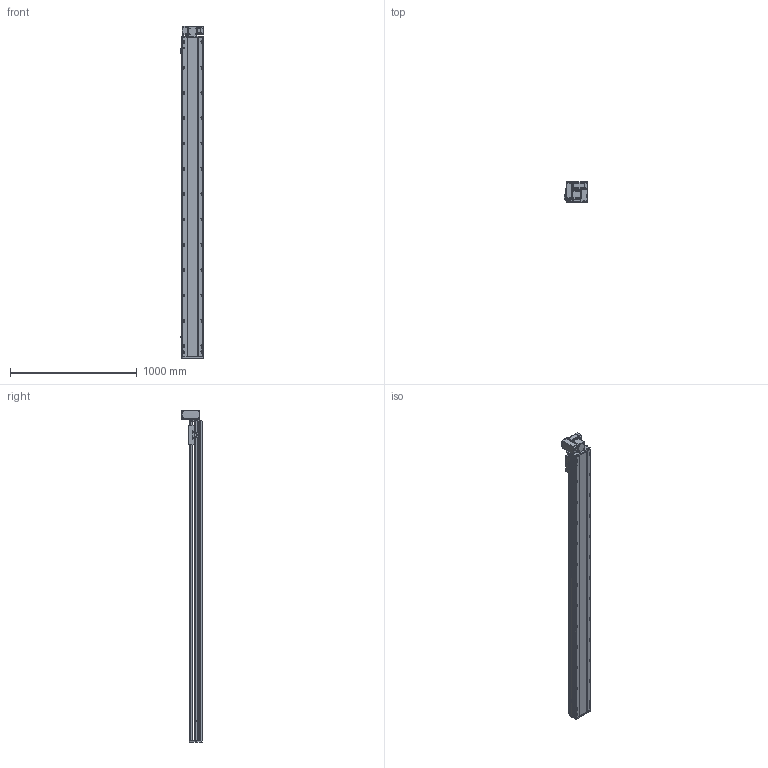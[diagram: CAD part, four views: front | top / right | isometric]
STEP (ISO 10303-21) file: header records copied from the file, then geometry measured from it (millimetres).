
FILE_DESCRIPTION (( 'STEP AP214' ), '1' );
FILE_NAME ('RTB17S-XX-2250-LW-M40-C4.STEP', '2025-12-11T07:14:42', ( '' ), ( '' ), 'SwSTEP 2.0', 'SolidWorks 2018', '' );
FILE_SCHEMA (( 'AUTOMOTIVE_DESIGN' ));
Length unit declared in the file: millimetre
Products named in the file (14): RTB17S-XX-2250-LW-M40-C4; RTB14-L-017P^RTB17S-LW-々湍釱蚾饜-400W_RTB17S-XX-XX-LW-M40-C4; OMRON EE-SX672 传感器^RTB17S-XX-XX-LW-M40-C4; RTB17S-LW-々湍釱蚾饜-400W^RTB17S-XX-XX-LW-M40-C4; RTB17S-L-004佪裝蹟譫蟀諉釱^RTB17S-XX-XX-LW-M40-C4; RTB14-L-005P--轴承塑胶压盖^RTB17S-LW-皮带座装配-400W_RTB17S-XX-XX-LW-M40-C4; RTH13-BL-012覜茼え俋离^RTB17S-XX-XX-LW-M40-C4; RTB14-L-018P^RTB17S-LW-々湍釱蚾饜-400W_RTB17S-XX-XX-LW-M40-C4; RTB14-L-008-M20--萇儂啣^RTB17S-LW-々湍釱蚾饜-400W_RTB17S-XX-XX-LW-M40-C4; 400W侜督萇儂^RTB17S-XX-XX-LW-M40-C4; RTB17-R-011菁釱^RTB17S-XX-XX-LW-M40-C4; RTB17S-L-007奻裔^RTB17S-XX-XX-LW-M40-C4; RTB17S-L-001耜醱啣^RTB17S-XX-XX-LW-M40-C4; RTB17S-L-014-T20--々湍釱^RTB17S-LW-々湍釱蚾饜-400W_RTB17S-XX-XX-LW-M40-C4
Assembly tree (16 placements, depth 3):
  RTB17S-XX-2250-LW-M40-C4
    RTB17-R-011菁釱^RTB17S-XX-XX-LW-M40-C4
    RTB17S-L-007奻裔^RTB17S-XX-XX-LW-M40-C4
    OMRON EE-SX672 传感器^RTB17S-XX-XX-LW-M40-C4  x3
    RTB17S-L-001耜醱啣^RTB17S-XX-XX-LW-M40-C4
    400W侜督萇儂^RTB17S-XX-XX-LW-M40-C4
    RTB17S-L-004佪裝蹟譫蟀諉釱^RTB17S-XX-XX-LW-M40-C4
    RTH13-BL-012覜茼え俋离^RTB17S-XX-XX-LW-M40-C4
    RTB17S-LW-々湍釱蚾饜-400W^RTB17S-XX-XX-LW-M40-C4
      RTB17S-L-014-T20--々湍釱^RTB17S-LW-々湍釱蚾饜-400W_RTB17S-XX-XX-LW-M40-C4
      RTB14-L-005P--轴承塑胶压盖^RTB17S-LW-皮带座装配-400W_RTB17S-XX-XX-LW-M40-C4
      RTB14-L-008-M20--萇儂啣^RTB17S-LW-々湍釱蚾饜-400W_RTB17S-XX-XX-LW-M40-C4
      RTB14-L-017P^RTB17S-LW-々湍釱蚾饜-400W_RTB17S-XX-XX-LW-M40-C4  x2
      RTB14-L-018P^RTB17S-LW-々湍釱蚾饜-400W_RTB17S-XX-XX-LW-M40-C4
Bounding box: 186 x 160.5 x 2622.5 mm (x, y, z)
Volume: 22562754.5 mm3; surface area: 2611477.7 mm2
Topology: 15 solids, 15 shells, 2317 faces, 6465 edges, 4221 vertices
Faces by surface type: plane 1082, cylinder 787, bspline 301, cone 139, torus 8
Entity records: 68009 total; most frequent: CARTESIAN_POINT 19270, ORIENTED_EDGE 9774, DIRECTION 9026, EDGE_CURVE 4887, VERTEX_POINT 3209, AXIS2_PLACEMENT_3D 3139, VECTOR 2748, LINE 2748
